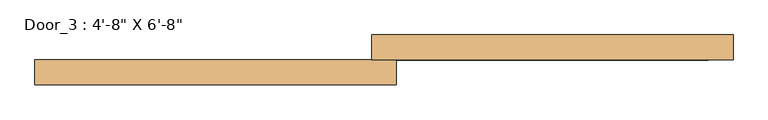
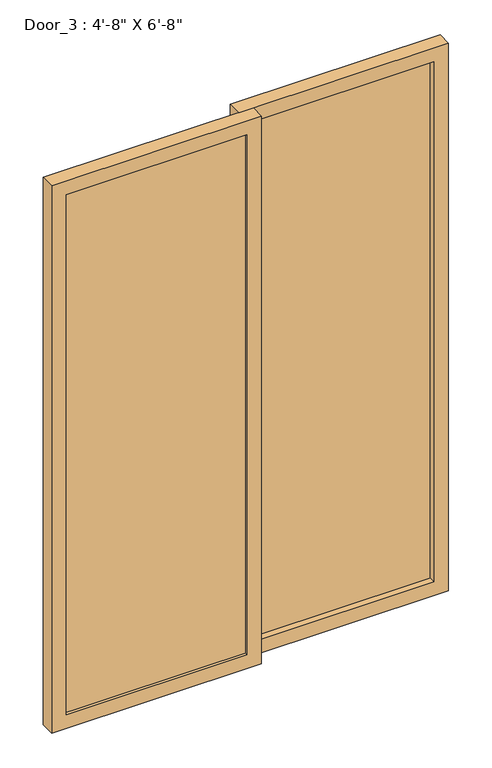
"""IFC4 building model written with IfcOpenShell, lengths in millimetres: door geometry."""

from ifc_helpers import new_model, si_unit, frame, origin, place, context, project, spatial, polyline, outline, extrude, source, transform, mapped, element, save


def door_df503d46(model_context):
    return source(origin(), model_context, "Body", "SweptSolid", [
        extrude(outline(polyline([(2032.0, -25.4), (0.0, -25.4), (0.0, 711.2), (2032.0, 711.2), (2032.0, -25.4)]), holes=[polyline([(1981.2, 25.4), (1981.2, 660.4), (50.8, 660.4), (50.8, 25.4), (1981.2, 25.4)])]), frame((0.0, -158.75, 0.0), z_axis=(0.0, 1.0, 0.0), x_axis=(0.0, 0.0, 1.0)), (0.0, 0.0, 1.0), 50.8),
        extrude(outline(polyline([(2032.0, 25.4), (2032.0, -711.2), (0.0, -711.2), (0.0, 25.4), (2032.0, 25.4)]), holes=[polyline([(1981.2, -25.4), (50.8, -25.4), (50.8, -660.4), (1981.2, -660.4), (1981.2, -25.4)])]), frame((0.0, -209.55, 0.0), z_axis=(0.0, 1.0, 0.0), x_axis=(0.0, 0.0, 1.0)), (0.0, 0.0, 1.0), 50.8),
        extrude(outline(polyline([(25.4, -136.525), (25.4, -130.175), (660.4, -130.175), (660.4, -136.525), (25.4, -136.525)])), frame((0.0, 0.0, 50.8), z_axis=(0.0, 0.0, 1.0), x_axis=(1.0, 0.0, 0.0)), (0.0, 0.0, 1.0), 1930.4),
        extrude(outline(polyline([(-25.4, -187.325), (-25.4, -200.025), (-660.4, -200.025), (-660.4, -187.325), (-25.4, -187.325)])), frame((0.0, 0.0, 50.8), z_axis=(0.0, 0.0, 1.0), x_axis=(1.0, 0.0, 0.0)), (0.0, 0.0, 1.0), 1930.4),
    ])


if __name__ == "__main__":
    model = new_model("IFC4")
    model_context = context("Model", 3, world=origin())
    ifc_project = project(units=[si_unit("LENGTHUNIT", "METRE", prefix="MILLI")], contexts=[model_context])
    site = spatial("IfcSite", under=ifc_project)
    building = spatial("IfcBuilding", under=site)
    placement = place(None, origin())
    door_shape = door_df503d46(model_context)
    element("IfcDoor", 1, ObjectType="Door_3 : 4'-8\" X 6'-8\"", at=placement, inside=building, context=model_context, shape_type="MappedRepresentation", body=[
        mapped(door_shape, transform((0.0, 0.0, 0.0), x_axis=(1.0, 0.0, 0.0), y_axis=(0.0, 1.0, 0.0), z_axis=(0.0, 0.0, 1.0))),
    ])
    save(model, "model.ifc")
